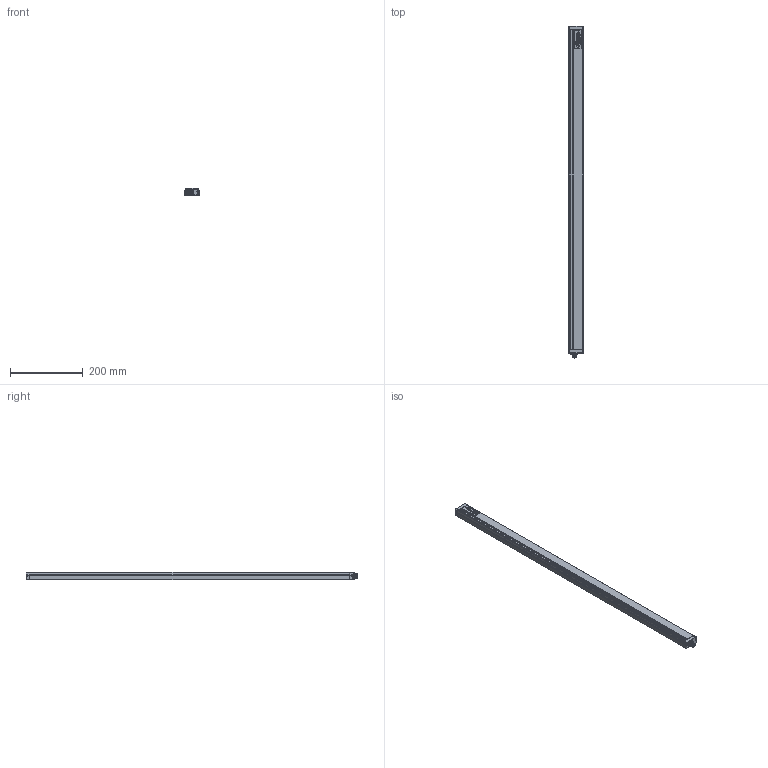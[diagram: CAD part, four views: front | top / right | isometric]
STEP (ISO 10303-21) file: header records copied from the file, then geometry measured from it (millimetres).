
FILE_DESCRIPTION(/* description */ (''),/* implementation_level */ '2;1');
FILE_NAME(/* name */ 'C:\Users\andre\SynologyDrive\Optoscan\Libreria Componenti\00 - Barriere\Barriera sorgente\Argo_880_TX.stp',/* time_stamp */ '2021-04-22T10:20:21+02:00',/* author */ ('andre'),/* organization */ (''),/* preprocessor_version */ 'ST-DEVELOPER v18',/* originating_system */ 'Autodesk Inventor 2020',/* authorisation */ '');
FILE_SCHEMA (('AUTOMOTIVE_DESIGN { 1 0 10303 214 3 1 1 }'));
Length unit declared in the file: millimetre
Products named in the file (1): Argo_880_TX
Bounding box: 40.5 x 913.3 x 20.75 mm (x, y, z)
Volume: 182775.9 mm3; surface area: 237258.5 mm2
Topology: 1 solids, 1 shells, 696 faces, 1911 edges, 1225 vertices
Faces by surface type: plane 321, cylinder 195, bspline 94, torus 72, cone 8, sphere 6
Full cylindrical faces by diameter (mm): 1 x4, 2.459 x4, 2.5 x4, 3 x4, 3.5 x4, 5.5 x4, 8 x1, 10.5 x2, 11.75 x9, 15.7 x1, 17.5 x1
Entity records: 30770 total; most frequent: CARTESIAN_POINT 12670, ORIENTED_EDGE 3806, DIRECTION 3415, EDGE_CURVE 1903, VERTEX_POINT 1225, AXIS2_PLACEMENT_3D 1193, LINE 1029, VECTOR 1029
